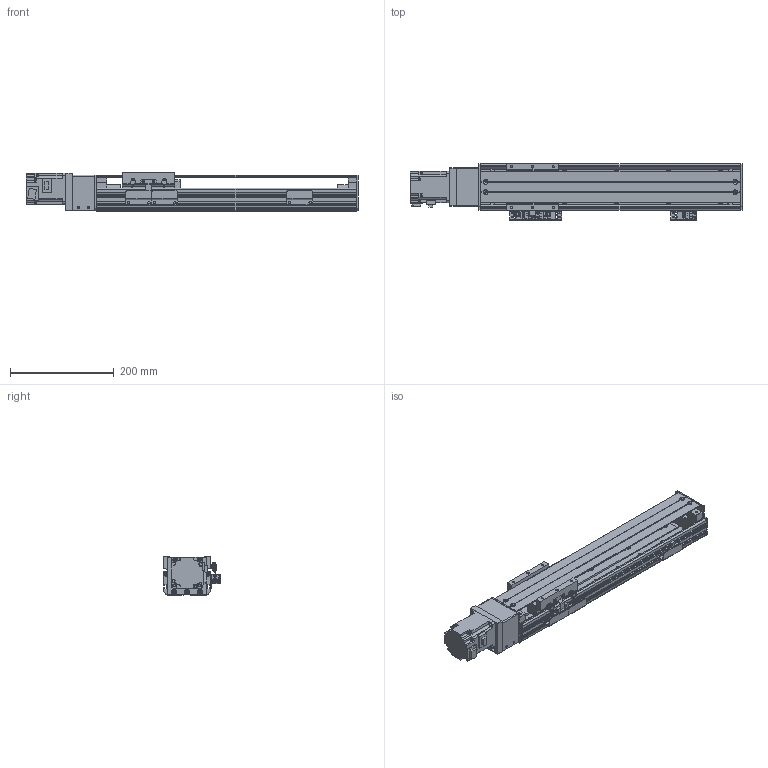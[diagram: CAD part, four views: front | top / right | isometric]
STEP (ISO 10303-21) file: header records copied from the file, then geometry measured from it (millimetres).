
FILE_DESCRIPTION(/* description */ (''),/* implementation_level */ '2;1');
FILE_NAME(/* name */ '\\192.168.0.160\disk1\HAN SHIN Master\B-설계부문\C-표준\B-2024년\BC02-표준도면\+로봇 개선표준도면\표준 승인도 작업 폴더\3D\HG90\HG90직렬\HG90-S20-N1B-0300-R10.stp',/* time_stamp */ '2024-02-16T10:40:06+09:00',/* author */ ('User'),/* organization */ (''),/* preprocessor_version */ 'ST-DEVELOPER v18.1',/* originating_system */ 'Autodesk Inventor 2022',/* authorisation */ '');
FILE_SCHEMA (('AUTOMOTIVE_DESIGN { 1 0 10303 214 3 1 1 }'));
Length unit declared in the file: millimetre
Products named in the file (20): HG90-S20-N1B-0500-R10 - 간소화; HR90 BASE 100W 1BLOCK; HR90 FRONT BLOCK; HR90 REAR BLOCK TENSION; HR90 REAR COVER-TENSION; HG4UPCOV002; HR90 FRRONT COVER-COUPLING; HR120 SENSOR DOG; HG90 S MOTOR PLATE-B; HG90 S MOTOR PLATE-M; hg-kr23_; COUPLING COVER; HG90STOPPER - 27L; HG90STOPPER - 20L; hsr_ftht_A-M6F_grease_nipple_joint; NIPPLE CAP(신규); HR90 TABLE; LMKE1520 NUT; SENSOR BRK(EE-SX674A); EE_SX674A
Assembly tree (25 placements, depth 2):
  HG90-S20-N1B-0500-R10 - 간소화
    HR90 BASE 100W 1BLOCK
    HR90 FRONT BLOCK
    HR90 REAR BLOCK TENSION
    HR90 REAR COVER-TENSION
    HG4UPCOV002
    EE_SX674A  x3
    SENSOR BRK(EE-SX674A)  x3
    HR90 FRRONT COVER-COUPLING
    HR120 SENSOR DOG
    HG90 S MOTOR PLATE-B
    HG90 S MOTOR PLATE-M
    hg-kr23_
    COUPLING COVER
    HG90STOPPER - 27L
    HG90STOPPER - 20L
    hsr_ftht_A-M6F_grease_nipple_joint  x2
    NIPPLE CAP(신규)  x2
    HR90 TABLE
    LMKE1520 NUT
Bounding box: 638.6 x 109 x 75 mm (x, y, z)
Volume: 1394147.5 mm3; surface area: 506218.6 mm2
Topology: 25 solids, 25 shells, 1370 faces, 3671 edges, 2407 vertices
Faces by surface type: plane 675, cylinder 538, cone 121, sphere 16, torus 12, bspline 8
Full cylindrical faces by diameter (mm): 2 x4, 2.459 x14, 3 x4, 3.242 x20, 3.5 x6, 4 x4, 4.134 x51, 4.5 x16, 4.917 x5, 5 x32, 5.5 x31, 5.6 x10, 5.8 x4, 5.9 x8, 6 x6, 6.5 x4, 9.5 x27, 14 x1, 15 x3, 17 x1, 22 x1, 25 x1, 28 x1, 32 x2, 33.7 x1, 34 x1, 40 x1, 46 x1, 50 x2
Entity records: 37282 total; most frequent: CARTESIAN_POINT 7298, DIRECTION 6219, ORIENTED_EDGE 5898, EDGE_CURVE 2949, AXIS2_PLACEMENT_3D 2242, VERTEX_POINT 1968, LINE 1735, VECTOR 1735
